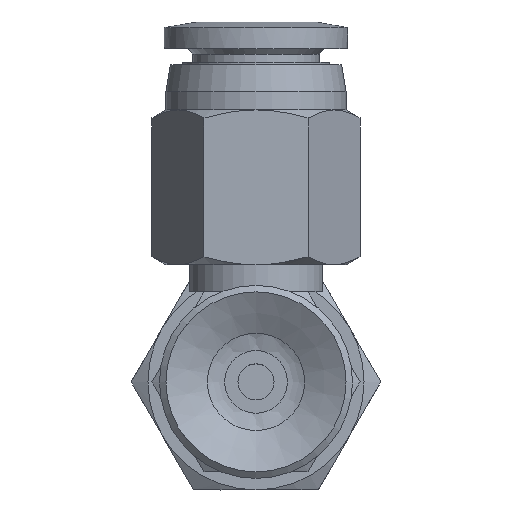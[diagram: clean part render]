
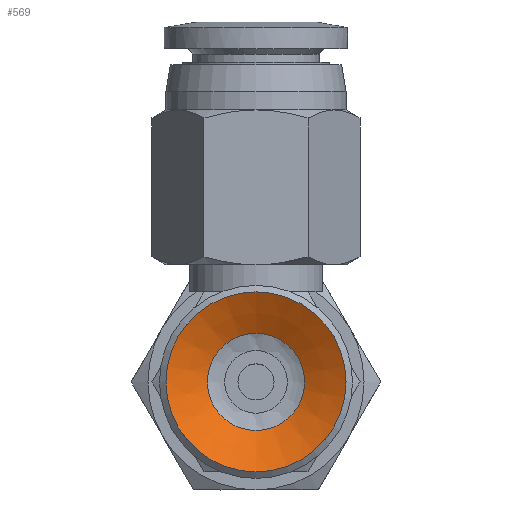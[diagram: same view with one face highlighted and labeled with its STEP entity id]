
A CAD part, front view. The second image highlights one B-rep face of the part: STEP entity #569.
In plain terms, the highlighted conical face has half-angle 61.39 degrees and reference radius 2.25 mm.
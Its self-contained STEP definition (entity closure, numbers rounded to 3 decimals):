
#569=ADVANCED_FACE('',(#903,#904),#905,.F.);
#903=FACE_BOUND('',#1348,.T.);
#904=FACE_OUTER_BOUND('',#1349,.T.);
#905=CONICAL_SURFACE('',#1350,2.25,1.071);
#1348=EDGE_LOOP('',(#2446));
#1349=EDGE_LOOP('',(#2447));
#1350=AXIS2_PLACEMENT_3D('',#2448,#2449,#2450);
#2446=ORIENTED_EDGE('',*,*,#2972,.T.);
#2447=ORIENTED_EDGE('',*,*,#2973,.T.);
#2448=CARTESIAN_POINT('',(0.0,1.5,0.0));
#2449=DIRECTION('',(-0.0,-1.0,0.));
#2450=DIRECTION('',(0.0,0.,-1.0));
#2972=EDGE_CURVE('',#3412,#3412,#3413,.T.);
#2973=EDGE_CURVE('',#3414,#3414,#3415,.T.);
#3412=VERTEX_POINT('',#4338);
#3413=CIRCLE('',#4339,2.698);
#3414=VERTEX_POINT('',#4340);
#3415=CIRCLE('',#4341,5.);
#4338=CARTESIAN_POINT('',(0.0,1.256,-2.698));
#4339=AXIS2_PLACEMENT_3D('',#5113,#5114,#5115);
#4340=CARTESIAN_POINT('',(0.0,0.,-5.));
#4341=AXIS2_PLACEMENT_3D('',#5116,#5117,#5118);
#5113=CARTESIAN_POINT('',(0.0,1.256,0.0));
#5114=DIRECTION('',(0.0,1.0,0.));
#5115=DIRECTION('',(0.0,0.,-1.0));
#5116=CARTESIAN_POINT('',(0.0,0.0,0.0));
#5117=DIRECTION('',(0.0,-1.0,0.));
#5118=DIRECTION('',(0.0,0.,-1.0));
